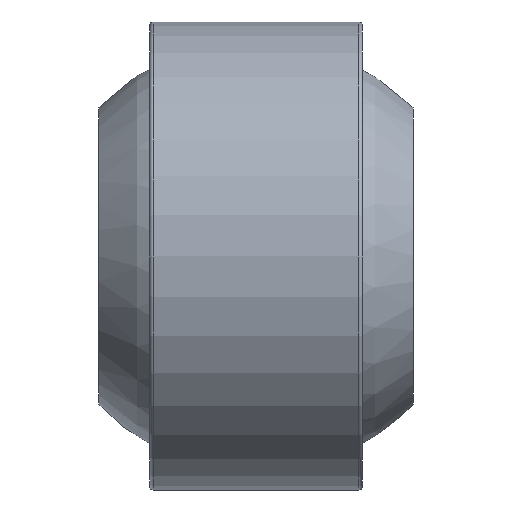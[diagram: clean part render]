
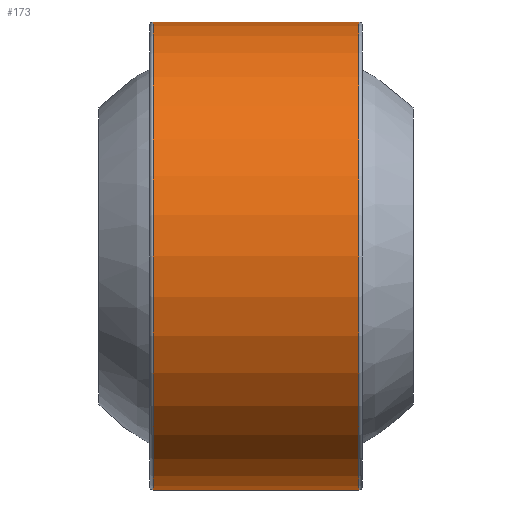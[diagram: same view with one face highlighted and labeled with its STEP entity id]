
A CAD part, front view. The second image highlights one B-rep face of the part: STEP entity #173.
In plain terms, the highlighted cylindrical face has radius 27.5 mm (diameter 55 mm), a full revolution.
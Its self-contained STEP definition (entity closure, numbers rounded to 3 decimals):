
#173 = ADVANCED_FACE( '', ( #195, #196, #197 ), #198, .T. );
#195 = FACE_OUTER_BOUND( '', #231, .T. );
#196 = FACE_BOUND( '', #232, .T. );
#197 = FACE_OUTER_BOUND( '', #233, .T. );
#198 = CYLINDRICAL_SURFACE( '', #234, 27.5 );
#231 = EDGE_LOOP( '', ( #274 ) );
#232 = EDGE_LOOP( '', ( #275 ) );
#233 = EDGE_LOOP( '', ( #276 ) );
#234 = AXIS2_PLACEMENT_3D( '', #277, #278, #279 );
#274 = ORIENTED_EDGE( '', *, *, #316, .T. );
#275 = ORIENTED_EDGE( '', *, *, #317, .T. );
#276 = ORIENTED_EDGE( '', *, *, #314, .F. );
#277 = CARTESIAN_POINT( '', ( 12.5, 0., 0. ) );
#278 = DIRECTION( '', ( -1., 0., 0. ) );
#279 = DIRECTION( '', ( 0., 0., -1. ) );
#314 = EDGE_CURVE( '', #330, #330, #331, .T. );
#316 = EDGE_CURVE( '', #334, #334, #335, .T. );
#317 = EDGE_CURVE( '', #336, #336, #337, .T. );
#330 = VERTEX_POINT( '', #354 );
#331 = CIRCLE( '', #355, 27.5 );
#334 = VERTEX_POINT( '', #358 );
#335 = CIRCLE( '', #359, 27.5 );
#336 = VERTEX_POINT( '', #360 );
#337 = B_SPLINE_CURVE_WITH_KNOTS( '', 3, ( #361, #362, #363, #364, #365, #366, #367, #368, #369, #370, #371, #372, #373, #374, #375, #376, #377, #378, #379, #380, #381, #382, #383, #384, #385, #386, #387, #388, #389, #390, #391, #392, #393, #394, #395, #396, #397, #398, #399, #400, #401, #402, #403, #404 ), .UNSPECIFIED., .T., .F., ( 2, 2, 2, 2, 2, 2, 2, 2, 2, 2, 2, 2, 2, 2, 2, 2, 2, 2, 2, 2, 2, 2, 2, 2 ), ( -0.001, 0., 0.001, 0.001, 0.001, 0.002, 0.002, 0.002, 0.003, 0.003, 0.004, 0.004, 0.004, 0.005, 0.005, 0.005, 0.006, 0.006, 0.007, 0.007, 0.007, 0.008, 0.008, 0.009 ), .UNSPECIFIED. );
#354 = CARTESIAN_POINT( '', ( 12.1, 0., -27.5 ) );
#355 = AXIS2_PLACEMENT_3D( '', #425, #426, #427 );
#358 = CARTESIAN_POINT( '', ( -12.1, 0., -27.5 ) );
#359 = AXIS2_PLACEMENT_3D( '', #431, #432, #433 );
#360 = CARTESIAN_POINT( '', ( 1.3, 27.5, 0. ) );
#361 = CARTESIAN_POINT( '', ( 1.3, 27.5, -0.172 ) );
#362 = CARTESIAN_POINT( '', ( 1.3, 27.5, 0.172 ) );
#363 = CARTESIAN_POINT( '', ( 1.266, 27.498, 0.34 ) );
#364 = CARTESIAN_POINT( '', ( 1.168, 27.494, 0.577 ) );
#365 = CARTESIAN_POINT( '', ( 1.128, 27.492, 0.651 ) );
#366 = CARTESIAN_POINT( '', ( 1.034, 27.489, 0.792 ) );
#367 = CARTESIAN_POINT( '', ( 0.979, 27.487, 0.859 ) );
#368 = CARTESIAN_POINT( '', ( 0.799, 27.481, 1.039 ) );
#369 = CARTESIAN_POINT( '', ( 0.654, 27.477, 1.136 ) );
#370 = CARTESIAN_POINT( '', ( 0.341, 27.471, 1.266 ) );
#371 = CARTESIAN_POINT( '', ( 0.17, 27.469, 1.3 ) );
#372 = CARTESIAN_POINT( '', ( -0.084, 27.469, 1.3 ) );
#373 = CARTESIAN_POINT( '', ( -0.17, 27.47, 1.292 ) );
#374 = CARTESIAN_POINT( '', ( -0.337, 27.471, 1.258 ) );
#375 = CARTESIAN_POINT( '', ( -0.418, 27.472, 1.234 ) );
#376 = CARTESIAN_POINT( '', ( -0.654, 27.477, 1.136 ) );
#377 = CARTESIAN_POINT( '', ( -0.797, 27.481, 1.041 ) );
#378 = CARTESIAN_POINT( '', ( -1.04, 27.489, 0.798 ) );
#379 = CARTESIAN_POINT( '', ( -1.136, 27.493, 0.655 ) );
#380 = CARTESIAN_POINT( '', ( -1.234, 27.497, 0.419 ) );
#381 = CARTESIAN_POINT( '', ( -1.258, 27.498, 0.338 ) );
#382 = CARTESIAN_POINT( '', ( -1.291, 27.5, 0.171 ) );
#383 = CARTESIAN_POINT( '', ( -1.3, 27.5, 0.085 ) );
#384 = CARTESIAN_POINT( '', ( -1.3, 27.5, -0.169 ) );
#385 = CARTESIAN_POINT( '', ( -1.266, 27.498, -0.34 ) );
#386 = CARTESIAN_POINT( '', ( -1.137, 27.493, -0.653 ) );
#387 = CARTESIAN_POINT( '', ( -1.04, 27.489, -0.798 ) );
#388 = CARTESIAN_POINT( '', ( -0.86, 27.483, -0.978 ) );
#389 = CARTESIAN_POINT( '', ( -0.793, 27.481, -1.033 ) );
#390 = CARTESIAN_POINT( '', ( -0.652, 27.477, -1.128 ) );
#391 = CARTESIAN_POINT( '', ( -0.578, 27.475, -1.168 ) );
#392 = CARTESIAN_POINT( '', ( -0.342, 27.471, -1.266 ) );
#393 = CARTESIAN_POINT( '', ( -0.173, 27.469, -1.3 ) );
#394 = CARTESIAN_POINT( '', ( 0.17, 27.469, -1.3 ) );
#395 = CARTESIAN_POINT( '', ( 0.339, 27.471, -1.267 ) );
#396 = CARTESIAN_POINT( '', ( 0.576, 27.475, -1.169 ) );
#397 = CARTESIAN_POINT( '', ( 0.65, 27.477, -1.129 ) );
#398 = CARTESIAN_POINT( '', ( 0.791, 27.481, -1.035 ) );
#399 = CARTESIAN_POINT( '', ( 0.858, 27.483, -0.98 ) );
#400 = CARTESIAN_POINT( '', ( 1.039, 27.489, -0.8 ) );
#401 = CARTESIAN_POINT( '', ( 1.136, 27.493, -0.655 ) );
#402 = CARTESIAN_POINT( '', ( 1.265, 27.498, -0.342 ) );
#403 = CARTESIAN_POINT( '', ( 1.3, 27.5, -0.172 ) );
#404 = CARTESIAN_POINT( '', ( 1.3, 27.5, 0.172 ) );
#425 = CARTESIAN_POINT( '', ( 12.1, 0., 0. ) );
#426 = DIRECTION( '', ( 1., 0., 0. ) );
#427 = DIRECTION( '', ( 0., 0., -1. ) );
#431 = CARTESIAN_POINT( '', ( -12.1, 0., 0. ) );
#432 = DIRECTION( '', ( 1., 0., 0. ) );
#433 = DIRECTION( '', ( 0., 0., -1. ) );
